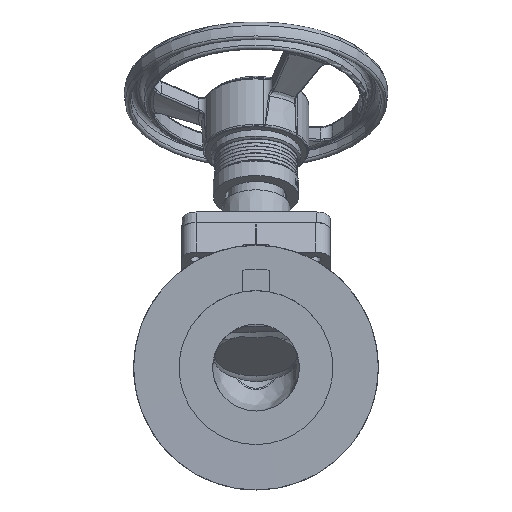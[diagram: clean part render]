
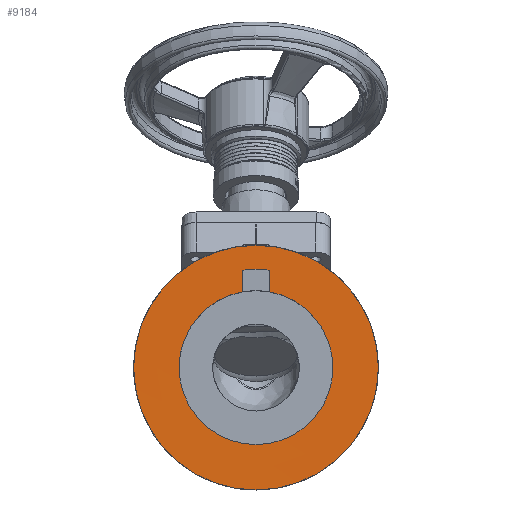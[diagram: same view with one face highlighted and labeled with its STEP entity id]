
A CAD part, left-side view. The second image highlights one B-rep face of the part: STEP entity #9184.
In plain terms, the highlighted conical face has half-angle 89.785 degrees and reference radius 75.736 mm.
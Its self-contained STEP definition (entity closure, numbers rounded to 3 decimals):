
#9046=CARTESIAN_POINT('',(-287.,-10.0,74.087));
#9047=VERTEX_POINT('',#9046);
#9054=CARTESIAN_POINT('',(-287.,10.,74.087));
#9055=VERTEX_POINT('',#9054);
#9056=CARTESIAN_POINT('',(-287.,0.0,0.0));
#9057=DIRECTION('',(1.0,0.0,0.0));
#9058=DIRECTION('',(0.0,-1.0,0.0));
#9059=AXIS2_PLACEMENT_3D('',#9056,#9057,#9058);
#9060=CIRCLE('',#9059,74.758);
#9061=EDGE_CURVE('',#9055,#9047,#9060,.T.);
#9089=CARTESIAN_POINT('',(-286.939,-10.0,57.605));
#9090=VERTEX_POINT('',#9089);
#9097=CARTESIAN_POINT('',(-287.,-10.0,74.087));
#9098=CARTESIAN_POINT('',(-286.966,-10.0,64.838));
#9099=CARTESIAN_POINT('',(-286.939,-10.0,57.605));
#9107=(BOUNDED_CURVE()B_SPLINE_CURVE(2,(#9097,#9098,#9099),.UNSPECIFIED.,.F.,.U.)B_SPLINE_CURVE_WITH_KNOTS((3,3),(0.25,0.589),.UNSPECIFIED.)CURVE()GEOMETRIC_REPRESENTATION_ITEM()RATIONAL_B_SPLINE_CURVE((1.222,1.37,1.512))REPRESENTATION_ITEM(''));
#9108=EDGE_CURVE('',#9047,#9090,#9107,.T.);
#9119=CARTESIAN_POINT('',(-286.939,10.,57.605));
#9120=VERTEX_POINT('',#9119);
#9128=CARTESIAN_POINT('',(-286.939,10.,57.605));
#9129=CARTESIAN_POINT('',(-286.966,10.,64.838));
#9130=CARTESIAN_POINT('',(-287.,10.,74.087));
#9138=(BOUNDED_CURVE()B_SPLINE_CURVE(2,(#9128,#9129,#9130),.UNSPECIFIED.,.F.,.U.)B_SPLINE_CURVE_WITH_KNOTS((3,3),(18.012,18.351),.UNSPECIFIED.)CURVE()GEOMETRIC_REPRESENTATION_ITEM()RATIONAL_B_SPLINE_CURVE((1.512,1.37,1.222))REPRESENTATION_ITEM(''));
#9139=EDGE_CURVE('',#9120,#9055,#9138,.T.);
#9156=CARTESIAN_POINT('',(-287.004,0.0,0.0));
#9157=DIRECTION('',(-1.0,0.0,0.0));
#9158=DIRECTION('',(0.0,-1.0,0.0));
#9159=AXIS2_PLACEMENT_3D('',#9156,#9157,#9158);
#9160=CONICAL_SURFACE('',#9159,75.736,89.785);
#9161=CARTESIAN_POINT('',(-287.069,-93.005,0.0));
#9162=VERTEX_POINT('',#9161);
#9163=CARTESIAN_POINT('',(-287.069,0.0,0.0));
#9164=DIRECTION('',(-1.0,0.0,0.0));
#9165=DIRECTION('',(0.0,-1.0,0.0));
#9166=AXIS2_PLACEMENT_3D('',#9163,#9164,#9165);
#9167=CIRCLE('',#9166,93.005);
#9168=EDGE_CURVE('',#9162,#9162,#9167,.T.);
#9169=ORIENTED_EDGE('',*,*,#9168,.T.);
#9170=EDGE_LOOP('',(#9169));
#9171=FACE_OUTER_BOUND('',#9170,.T.);
#9172=ORIENTED_EDGE('',*,*,#9139,.T.);
#9173=ORIENTED_EDGE('',*,*,#9061,.T.);
#9174=ORIENTED_EDGE('',*,*,#9108,.T.);
#9175=CARTESIAN_POINT('',(-286.939,0.0,0.0));
#9176=DIRECTION('',(-1.0,0.0,0.0));
#9177=DIRECTION('',(0.0,-1.0,0.0));
#9178=AXIS2_PLACEMENT_3D('',#9175,#9176,#9177);
#9179=CIRCLE('',#9178,58.467);
#9180=EDGE_CURVE('',#9120,#9090,#9179,.T.);
#9181=ORIENTED_EDGE('',*,*,#9180,.F.);
#9182=EDGE_LOOP('',(#9172,#9173,#9174,#9181));
#9183=FACE_BOUND('',#9182,.T.);
#9184=ADVANCED_FACE('',(#9171,#9183),#9160,.F.);
